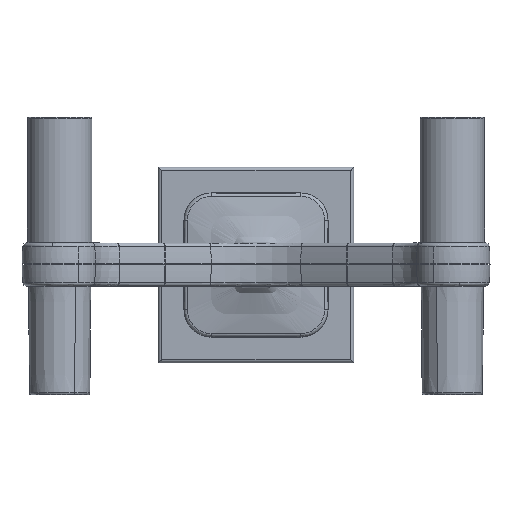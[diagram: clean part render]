
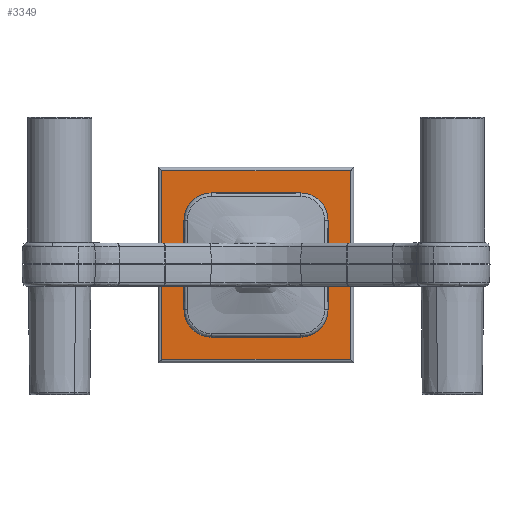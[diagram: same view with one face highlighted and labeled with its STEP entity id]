
A CAD part, top view. The second image highlights one B-rep face of the part: STEP entity #3349.
In plain terms, the highlighted planar face has unit normal (0, 0, 1).
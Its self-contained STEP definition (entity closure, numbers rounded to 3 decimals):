
#143 = EDGE_CURVE ( 'NONE', #15548, #100900, #107915, .T. ) ;
#384 = AXIS2_PLACEMENT_3D ( 'NONE', #58162, #3083, #67401 ) ;
#931 = DIRECTION ( 'NONE',  ( 0., 0., 1. ) ) ;
#1177 = DIRECTION ( 'NONE',  ( 0., 0., 1. ) ) ;
#2905 = CIRCLE ( 'NONE', #61464, 2.75 ) ;
#3083 = DIRECTION ( 'NONE',  ( 0., 0., 1. ) ) ;
#3349 = ADVANCED_FACE ( 'NONE', ( #46819, #111729, #68407, #16583, #41035, #87158 ), #71335, .T. ) ;
#4477 = VERTEX_POINT ( 'NONE', #75509 ) ;
#4574 = AXIS2_PLACEMENT_3D ( 'NONE', #12837, #77218, #22085 ) ;
#5843 = VERTEX_POINT ( 'NONE', #79105 ) ;
#6086 = EDGE_LOOP ( 'NONE', ( #98348, #64094 ) ) ;
#7200 = VERTEX_POINT ( 'NONE', #99865 ) ;
#8020 = CARTESIAN_POINT ( 'NONE',  ( -29.75, 2.75, 6. ) ) ;
#8191 = CARTESIAN_POINT ( 'NONE',  ( 0., 0., 6. ) ) ;
#9003 = EDGE_CURVE ( 'NONE', #62361, #72627, #104947, .T. ) ;
#11448 = AXIS2_PLACEMENT_3D ( 'NONE', #16243, #15847, #25475 ) ;
#11974 = CARTESIAN_POINT ( 'NONE',  ( 29.75, 0., 6. ) ) ;
#12837 = CARTESIAN_POINT ( 'NONE',  ( 46., 3., 6. ) ) ;
#13762 = CARTESIAN_POINT ( 'NONE',  ( 52.5, 52.5, 6. ) ) ;
#14805 = DIRECTION ( 'NONE',  ( 0., 0., 1. ) ) ;
#15548 = VERTEX_POINT ( 'NONE', #88636 ) ;
#15847 = DIRECTION ( 'NONE',  ( 0., 0., 1. ) ) ;
#16243 = CARTESIAN_POINT ( 'NONE',  ( -54.5, -54.5, 6. ) ) ;
#16583 = FACE_BOUND ( 'NONE', #75694, .T. ) ;
#16724 = CIRCLE ( 'NONE', #51443, 2.25 ) ;
#17266 = CARTESIAN_POINT ( 'NONE',  ( -24.25, 2.75, 6. ) ) ;
#17434 = DIRECTION ( 'NONE',  ( 1., 0., 0. ) ) ;
#18476 = EDGE_CURVE ( 'NONE', #70938, #4477, #108339, .T. ) ;
#20015 = VERTEX_POINT ( 'NONE', #43689 ) ;
#21396 = CIRCLE ( 'NONE', #384, 4.9 ) ;
#21497 = AXIS2_PLACEMENT_3D ( 'NONE', #86902, #31737, #96157 ) ;
#22085 = DIRECTION ( 'NONE',  ( 1., 0., 0. ) ) ;
#24038 = AXIS2_PLACEMENT_3D ( 'NONE', #49895, #114463, #59173 ) ;
#25010 = ORIENTED_EDGE ( 'NONE', *, *, #55262, .F. ) ;
#25475 = DIRECTION ( 'NONE',  ( 1., 0., 0. ) ) ;
#25803 = VECTOR ( 'NONE', #79394, 1000. ) ;
#26557 = CARTESIAN_POINT ( 'NONE',  ( 43.75, 3., 6. ) ) ;
#27472 = EDGE_CURVE ( 'NONE', #111024, #44908, #54012, .T. ) ;
#28759 = CARTESIAN_POINT ( 'NONE',  ( -52.5, -54.5, 6. ) ) ;
#29028 = EDGE_CURVE ( 'NONE', #20015, #7200, #75437, .T. ) ;
#29560 = VECTOR ( 'NONE', #93158, 1000. ) ;
#31292 = EDGE_LOOP ( 'NONE', ( #95685, #105463, #101159, #25010 ) ) ;
#31737 = DIRECTION ( 'NONE',  ( 0., 0., 1. ) ) ;
#32085 = AXIS2_PLACEMENT_3D ( 'NONE', #37452, #101894, #46718 ) ;
#34397 = EDGE_CURVE ( 'NONE', #44908, #62361, #50264, .T. ) ;
#35481 = DIRECTION ( 'NONE',  ( 0., 1., 0. ) ) ;
#35748 = DIRECTION ( 'NONE',  ( 0., 1., 0. ) ) ;
#37392 = LINE ( 'NONE', #50751, #61876 ) ;
#37452 = CARTESIAN_POINT ( 'NONE',  ( -27., -2.75, 6. ) ) ;
#40534 = ORIENTED_EDGE ( 'NONE', *, *, #74919, .T. ) ;
#41035 = FACE_BOUND ( 'NONE', #113567, .T. ) ;
#41321 = VERTEX_POINT ( 'NONE', #105926 ) ;
#43689 = CARTESIAN_POINT ( 'NONE',  ( -43.75, 3., 6. ) ) ;
#44908 = VERTEX_POINT ( 'NONE', #94101 ) ;
#44915 = CARTESIAN_POINT ( 'NONE',  ( -54.5, 52.5, 6. ) ) ;
#46712 = EDGE_LOOP ( 'NONE', ( #98079, #60656 ) ) ;
#46718 = DIRECTION ( 'NONE',  ( 1., 0., 0. ) ) ;
#46819 = FACE_BOUND ( 'NONE', #6086, .T. ) ;
#47585 = EDGE_LOOP ( 'NONE', ( #83482, #40534, #76978, #90881 ) ) ;
#49895 = CARTESIAN_POINT ( 'NONE',  ( -46., 3., 6. ) ) ;
#50264 = LINE ( 'NONE', #70087, #25803 ) ;
#50751 = CARTESIAN_POINT ( 'NONE',  ( -29.75, 2.75, 6. ) ) ;
#51443 = AXIS2_PLACEMENT_3D ( 'NONE', #69875, #14805, #79166 ) ;
#52126 = VECTOR ( 'NONE', #35748, 1000. ) ;
#52312 = CIRCLE ( 'NONE', #4574, 2.25 ) ;
#53609 = CARTESIAN_POINT ( 'NONE',  ( 52.5, 54.5, 6. ) ) ;
#53847 = CIRCLE ( 'NONE', #24038, 2.25 ) ;
#54012 = LINE ( 'NONE', #28759, #29560 ) ;
#54064 = DIRECTION ( 'NONE',  ( 0., 0., 1. ) ) ;
#55262 = EDGE_CURVE ( 'NONE', #100900, #41321, #76623, .T. ) ;
#56008 = CARTESIAN_POINT ( 'NONE',  ( -27., 2.75, 6. ) ) ;
#56229 = CARTESIAN_POINT ( 'NONE',  ( 27., 0., 6. ) ) ;
#58162 = CARTESIAN_POINT ( 'NONE',  ( 0., 0., 6. ) ) ;
#59173 = DIRECTION ( 'NONE',  ( 1., 0., 0. ) ) ;
#60656 = ORIENTED_EDGE ( 'NONE', *, *, #65451, .F. ) ;
#61464 = AXIS2_PLACEMENT_3D ( 'NONE', #56229, #1177, #65483 ) ;
#61876 = VECTOR ( 'NONE', #115291, 1000. ) ;
#62361 = VERTEX_POINT ( 'NONE', #111731 ) ;
#62562 = VERTEX_POINT ( 'NONE', #87057 ) ;
#64094 = ORIENTED_EDGE ( 'NONE', *, *, #82892, .F. ) ;
#64162 = LINE ( 'NONE', #44915, #82919 ) ;
#65107 = CIRCLE ( 'NONE', #98696, 4.9 ) ;
#65256 = DIRECTION ( 'NONE',  ( 1., 0., 0. ) ) ;
#65451 = EDGE_CURVE ( 'NONE', #7200, #20015, #53847, .T. ) ;
#65483 = DIRECTION ( 'NONE',  ( 1., 0., 0. ) ) ;
#67401 = DIRECTION ( 'NONE',  ( 1., 0., 0. ) ) ;
#68407 = FACE_BOUND ( 'NONE', #31292, .T. ) ;
#69875 = CARTESIAN_POINT ( 'NONE',  ( 46., 3., 6. ) ) ;
#70087 = CARTESIAN_POINT ( 'NONE',  ( 54.5, -52.5, 6. ) ) ;
#70781 = EDGE_CURVE ( 'NONE', #4477, #70938, #2905, .T. ) ;
#70938 = VERTEX_POINT ( 'NONE', #11974 ) ;
#70937 = CARTESIAN_POINT ( 'NONE',  ( -52.5, 52.5, 6. ) ) ;
#71335 = PLANE ( 'NONE',  #11448 ) ;
#71788 = CIRCLE ( 'NONE', #118710, 2.75 ) ;
#71866 = EDGE_CURVE ( 'NONE', #41321, #87030, #71788, .T. ) ;
#72548 = DIRECTION ( 'NONE',  ( 0., 0., 1. ) ) ;
#72627 = VERTEX_POINT ( 'NONE', #13762 ) ;
#74919 = EDGE_CURVE ( 'NONE', #72627, #111024, #64162, .T. ) ;
#75437 = CIRCLE ( 'NONE', #117196, 2.25 ) ;
#75509 = CARTESIAN_POINT ( 'NONE',  ( 24.25, 0., 6. ) ) ;
#75694 = EDGE_LOOP ( 'NONE', ( #91344, #88374 ) ) ;
#76623 = LINE ( 'NONE', #17266, #52126 ) ;
#76805 = VERTEX_POINT ( 'NONE', #83176 ) ;
#76978 = ORIENTED_EDGE ( 'NONE', *, *, #27472, .T. ) ;
#77218 = DIRECTION ( 'NONE',  ( 0., 0., 1. ) ) ;
#78666 = ORIENTED_EDGE ( 'NONE', *, *, #98396, .F. ) ;
#78889 = ORIENTED_EDGE ( 'NONE', *, *, #103278, .F. ) ;
#79105 = CARTESIAN_POINT ( 'NONE',  ( 4.9, 0., 6. ) ) ;
#79166 = DIRECTION ( 'NONE',  ( 1., 0., 0. ) ) ;
#79394 = DIRECTION ( 'NONE',  ( 1., 0., 0. ) ) ;
#79572 = CARTESIAN_POINT ( 'NONE',  ( -24.25, -2.75, 6. ) ) ;
#82892 = EDGE_CURVE ( 'NONE', #113495, #76805, #16724, .T. ) ;
#82919 = VECTOR ( 'NONE', #100089, 1000. ) ;
#83176 = CARTESIAN_POINT ( 'NONE',  ( 48.25, 3., 6. ) ) ;
#83482 = ORIENTED_EDGE ( 'NONE', *, *, #9003, .T. ) ;
#86902 = CARTESIAN_POINT ( 'NONE',  ( 27., 0., 6. ) ) ;
#87030 = VERTEX_POINT ( 'NONE', #8020 ) ;
#87057 = CARTESIAN_POINT ( 'NONE',  ( -4.9, 0., 6. ) ) ;
#87158 = FACE_OUTER_BOUND ( 'NONE', #47585, .T. ) ;
#88374 = ORIENTED_EDGE ( 'NONE', *, *, #70781, .F. ) ;
#88636 = CARTESIAN_POINT ( 'NONE',  ( -29.75, -2.75, 6. ) ) ;
#90881 = ORIENTED_EDGE ( 'NONE', *, *, #34397, .T. ) ;
#91344 = ORIENTED_EDGE ( 'NONE', *, *, #18476, .F. ) ;
#93158 = DIRECTION ( 'NONE',  ( 0., -1., 0. ) ) ;
#94101 = CARTESIAN_POINT ( 'NONE',  ( -52.5, -52.5, 6. ) ) ;
#95685 = ORIENTED_EDGE ( 'NONE', *, *, #143, .F. ) ;
#96157 = DIRECTION ( 'NONE',  ( 1., 0., 0. ) ) ;
#97436 = EDGE_CURVE ( 'NONE', #76805, #113495, #52312, .T. ) ;
#98079 = ORIENTED_EDGE ( 'NONE', *, *, #29028, .F. ) ;
#98348 = ORIENTED_EDGE ( 'NONE', *, *, #97436, .F. ) ;
#98396 = EDGE_CURVE ( 'NONE', #5843, #62562, #65107, .T. ) ;
#98696 = AXIS2_PLACEMENT_3D ( 'NONE', #8191, #72548, #17434 ) ;
#99142 = VECTOR ( 'NONE', #35481, 1000. ) ;
#99865 = CARTESIAN_POINT ( 'NONE',  ( -48.25, 3., 6. ) ) ;
#100089 = DIRECTION ( 'NONE',  ( -1., 0., 0. ) ) ;
#100900 = VERTEX_POINT ( 'NONE', #79572 ) ;
#101159 = ORIENTED_EDGE ( 'NONE', *, *, #71866, .F. ) ;
#101894 = DIRECTION ( 'NONE',  ( 0., 0., 1. ) ) ;
#103278 = EDGE_CURVE ( 'NONE', #62562, #5843, #21396, .T. ) ;
#104947 = LINE ( 'NONE', #53609, #99142 ) ;
#105463 = ORIENTED_EDGE ( 'NONE', *, *, #113273, .F. ) ;
#105926 = CARTESIAN_POINT ( 'NONE',  ( -24.25, 2.75, 6. ) ) ;
#107915 = CIRCLE ( 'NONE', #32085, 2.75 ) ;
#108339 = CIRCLE ( 'NONE', #21497, 2.75 ) ;
#109356 = CARTESIAN_POINT ( 'NONE',  ( -46., 3., 6. ) ) ;
#111024 = VERTEX_POINT ( 'NONE', #70937 ) ;
#111729 = FACE_BOUND ( 'NONE', #46712, .T. ) ;
#111731 = CARTESIAN_POINT ( 'NONE',  ( 52.5, -52.5, 6. ) ) ;
#113273 = EDGE_CURVE ( 'NONE', #87030, #15548, #37392, .T. ) ;
#113495 = VERTEX_POINT ( 'NONE', #26557 ) ;
#113567 = EDGE_LOOP ( 'NONE', ( #78666, #78889 ) ) ;
#114463 = DIRECTION ( 'NONE',  ( 0., 0., 1. ) ) ;
#115291 = DIRECTION ( 'NONE',  ( 0., -1., 0. ) ) ;
#117196 = AXIS2_PLACEMENT_3D ( 'NONE', #109356, #54064, #118612 ) ;
#118612 = DIRECTION ( 'NONE',  ( 1., 0., 0. ) ) ;
#118710 = AXIS2_PLACEMENT_3D ( 'NONE', #56008, #931, #65256 ) ;
